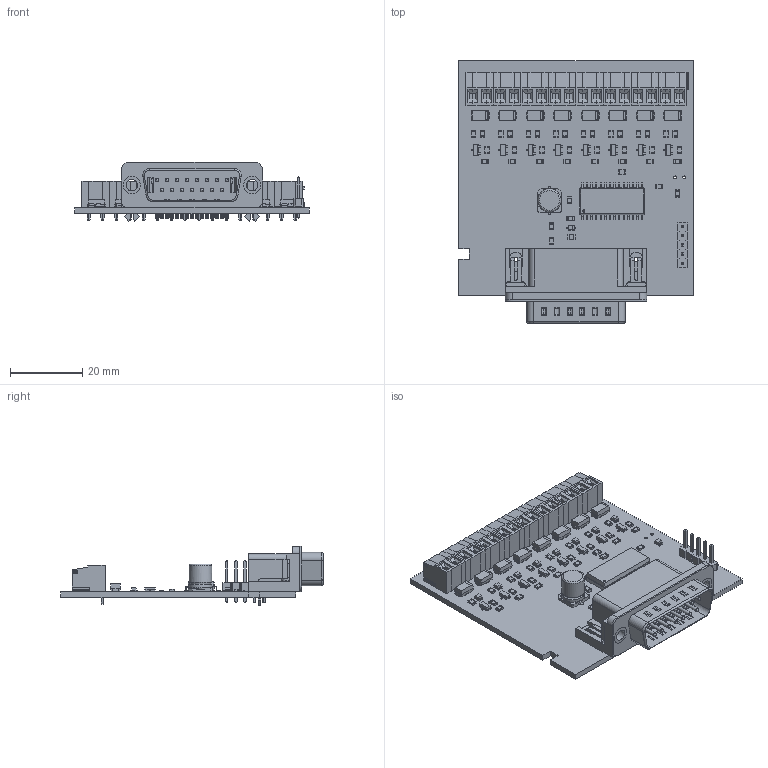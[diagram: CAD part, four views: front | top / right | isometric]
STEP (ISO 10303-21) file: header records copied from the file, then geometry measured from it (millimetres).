
FILE_DESCRIPTION (( 'STEP AP203' ), '1' );
FILE_NAME ('0822_MEV-FOEM_0101.STEP', '2022-08-04T10:06:10', ( '' ), ( '' ), 'SwSTEP 2.0', 'SolidWorks 2020', '' );
FILE_SCHEMA (( 'CONFIG_CONTROL_DESIGN' ));
Products named in the file (1): 0822_MEV-FOEM_0101
Bounding box: 65 x 72.64 x 16.35 mm (x, y, z)
Volume: 14968.9 mm3; surface area: 25018.8 mm2
Topology: 108 solids, 108 shells, 5389 faces, 14404 edges, 9270 vertices
Faces by surface type: plane 3637, cylinder 1104, bspline 602, cone 21, sphere 15, torus 10
Full cylindrical faces by diameter (mm): 0.02 x1, 0.6 x1, 0.7 x7, 0.762 x6, 0.8 x8, 0.813 x2, 1 x39, 1.1 x21, 3.121 x2, 4 x8, 6.3 x2
Entity records: 193291 total; most frequent: CARTESIAN_POINT 61782, ORIENTED_EDGE 28456, DIRECTION 24953, EDGE_CURVE 14228, LINE 11159, VECTOR 11159, VERTEX_POINT 9232, AXIS2_PLACEMENT_3D 6897
